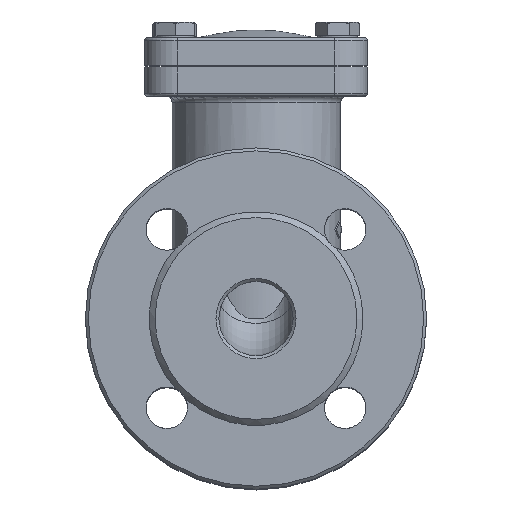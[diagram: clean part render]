
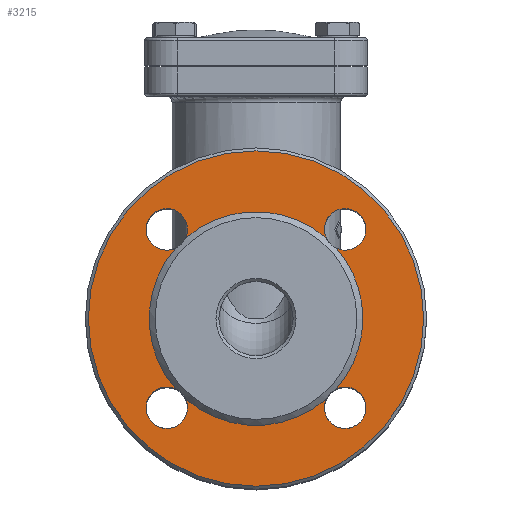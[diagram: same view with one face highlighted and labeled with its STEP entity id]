
A CAD part, top view. The second image highlights one B-rep face of the part: STEP entity #3215.
In plain terms, the highlighted planar face has unit normal (0, 0, 1).
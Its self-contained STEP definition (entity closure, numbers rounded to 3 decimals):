
#3215=ADVANCED_FACE('',(#8164,#8166),#8168,.T.);
#8164=FACE_BOUND('',#8165,.T.);
#8165=EDGE_LOOP('',(#9968));
#8166=FACE_BOUND('',#8167,.T.);
#8167=EDGE_LOOP('',(#9969,#9970,#9971,#9972,#9973,#9974,#9975,#9976,#9977,#9978,
#9979,#9980,#9981));
#8168=PLANE('',#8169);
#8169=AXIS2_PLACEMENT_3D('',#8170,#8171,#8172);
#8170=CARTESIAN_POINT('',(0.,0.,77.143));
#8171=DIRECTION('',(0.,0.,1.));
#8172=DIRECTION('',(1.,0.,0.));
#9968=ORIENTED_EDGE('',*,*,#10891,.F.);
#9969=ORIENTED_EDGE('',*,*,#10892,.F.);
#9970=ORIENTED_EDGE('',*,*,#10869,.T.);
#9971=ORIENTED_EDGE('',*,*,#10871,.T.);
#9972=ORIENTED_EDGE('',*,*,#10893,.F.);
#9973=ORIENTED_EDGE('',*,*,#10866,.T.);
#9974=ORIENTED_EDGE('',*,*,#10868,.T.);
#9975=ORIENTED_EDGE('',*,*,#10894,.F.);
#9976=ORIENTED_EDGE('',*,*,#10863,.T.);
#9977=ORIENTED_EDGE('',*,*,#10865,.T.);
#9978=ORIENTED_EDGE('',*,*,#10895,.F.);
#9979=ORIENTED_EDGE('',*,*,#10896,.F.);
#9980=ORIENTED_EDGE('',*,*,#10872,.T.);
#9981=ORIENTED_EDGE('',*,*,#10874,.T.);
#10863=EDGE_CURVE('',#12238,#12239,#12240,.T.);
#10865=EDGE_CURVE('',#12239,#12241,#12243,.T.);
#10866=EDGE_CURVE('',#12244,#12245,#12246,.T.);
#10868=EDGE_CURVE('',#12245,#12247,#12249,.T.);
#10869=EDGE_CURVE('',#12250,#12251,#12252,.T.);
#10871=EDGE_CURVE('',#12251,#12253,#12255,.T.);
#10872=EDGE_CURVE('',#12256,#12257,#12258,.T.);
#10874=EDGE_CURVE('',#12257,#12259,#12261,.T.);
#10891=EDGE_CURVE('',#12294,#12294,#12295,.T.);
#10892=EDGE_CURVE('',#12250,#12259,#12296,.T.);
#10893=EDGE_CURVE('',#12244,#12253,#12297,.T.);
#10894=EDGE_CURVE('',#12238,#12247,#12298,.T.);
#10895=EDGE_CURVE('',#12299,#12241,#12300,.T.);
#10896=EDGE_CURVE('',#12256,#12299,#12301,.T.);
#12238=VERTEX_POINT('',#21793);
#12239=VERTEX_POINT('',#21794);
#12240=CIRCLE('',#21795,7.);
#12241=VERTEX_POINT('',#21799);
#12243=CIRCLE('',#21856,7.);
#12244=VERTEX_POINT('',#21860);
#12245=VERTEX_POINT('',#21861);
#12246=CIRCLE('',#21862,7.);
#12247=VERTEX_POINT('',#21866);
#12249=CIRCLE('',#21923,7.);
#12250=VERTEX_POINT('',#21927);
#12251=VERTEX_POINT('',#21928);
#12252=CIRCLE('',#21929,7.);
#12253=VERTEX_POINT('',#21933);
#12255=CIRCLE('',#21990,7.);
#12256=VERTEX_POINT('',#21994);
#12257=VERTEX_POINT('',#21995);
#12258=CIRCLE('',#21996,7.);
#12259=VERTEX_POINT('',#22000);
#12261=CIRCLE('',#22057,7.);
#12294=VERTEX_POINT('',#22349);
#12295=CIRCLE('',#22350,56.5);
#12296=CIRCLE('',#22354,36.);
#12297=CIRCLE('',#22358,36.);
#12298=CIRCLE('',#22362,36.);
#12299=VERTEX_POINT('',#22366);
#12300=CIRCLE('',#22367,36.);
#12301=CIRCLE('',#22371,36.);
#21793=CARTESIAN_POINT('',(23.71,27.09,77.143));
#21794=CARTESIAN_POINT('',(37.052,30.052,77.143));
#21795=AXIS2_PLACEMENT_3D('',#21796,#21797,#21798);
#21796=CARTESIAN_POINT('',(30.052,30.052,77.143));
#21797=DIRECTION('',(0.,0.,-1.));
#21798=DIRECTION('',(-0.906,-0.423,0.));
#21799=CARTESIAN_POINT('',(27.09,23.71,77.143));
#21856=AXIS2_PLACEMENT_3D('',#21857,#21858,#21859);
#21857=CARTESIAN_POINT('',(30.052,30.052,77.143));
#21858=DIRECTION('',(0.,0.,-1.));
#21859=DIRECTION('',(1.,0.,0.));
#21860=CARTESIAN_POINT('',(-27.09,23.71,77.143));
#21861=CARTESIAN_POINT('',(-23.052,30.052,77.143));
#21862=AXIS2_PLACEMENT_3D('',#21863,#21864,#21865);
#21863=CARTESIAN_POINT('',(-30.052,30.052,77.143));
#21864=DIRECTION('',(0.,0.,-1.));
#21865=DIRECTION('',(0.423,-0.906,0.));
#21866=CARTESIAN_POINT('',(-23.71,27.09,77.143));
#21923=AXIS2_PLACEMENT_3D('',#21924,#21925,#21926);
#21924=CARTESIAN_POINT('',(-30.052,30.052,77.143));
#21925=DIRECTION('',(0.,0.,-1.));
#21926=DIRECTION('',(1.,0.,0.));
#21927=CARTESIAN_POINT('',(-23.71,-27.09,77.143));
#21928=CARTESIAN_POINT('',(-23.052,-30.052,77.143));
#21929=AXIS2_PLACEMENT_3D('',#21930,#21931,#21932);
#21930=CARTESIAN_POINT('',(-30.052,-30.052,77.143));
#21931=DIRECTION('',(0.,0.,-1.));
#21932=DIRECTION('',(0.906,0.423,0.));
#21933=CARTESIAN_POINT('',(-27.09,-23.71,77.143));
#21990=AXIS2_PLACEMENT_3D('',#21991,#21992,#21993);
#21991=CARTESIAN_POINT('',(-30.052,-30.052,77.143));
#21992=DIRECTION('',(0.,0.,-1.));
#21993=DIRECTION('',(1.,0.,0.));
#21994=CARTESIAN_POINT('',(27.09,-23.71,77.143));
#21995=CARTESIAN_POINT('',(37.052,-30.052,77.143));
#21996=AXIS2_PLACEMENT_3D('',#21997,#21998,#21999);
#21997=CARTESIAN_POINT('',(30.052,-30.052,77.143));
#21998=DIRECTION('',(0.,0.,-1.));
#21999=DIRECTION('',(-0.423,0.906,0.));
#22000=CARTESIAN_POINT('',(23.71,-27.09,77.143));
#22057=AXIS2_PLACEMENT_3D('',#22058,#22059,#22060);
#22058=CARTESIAN_POINT('',(30.052,-30.052,77.143));
#22059=DIRECTION('',(0.,0.,-1.));
#22060=DIRECTION('',(1.,0.,0.));
#22349=CARTESIAN_POINT('',(56.5,0.,77.143));
#22350=AXIS2_PLACEMENT_3D('',#22351,#22352,#22353);
#22351=CARTESIAN_POINT('',(0.,0.,77.143));
#22352=DIRECTION('',(0.,0.,-1.));
#22353=DIRECTION('',(1.,0.,0.));
#22354=AXIS2_PLACEMENT_3D('',#22355,#22356,#22357);
#22355=CARTESIAN_POINT('',(0.,0.,77.143));
#22356=DIRECTION('',(0.,0.,1.));
#22357=DIRECTION('',(-0.659,-0.752,0.));
#22358=AXIS2_PLACEMENT_3D('',#22359,#22360,#22361);
#22359=CARTESIAN_POINT('',(0.,0.,77.143));
#22360=DIRECTION('',(0.,0.,1.));
#22361=DIRECTION('',(-0.752,0.659,0.));
#22362=AXIS2_PLACEMENT_3D('',#22363,#22364,#22365);
#22363=CARTESIAN_POINT('',(0.,0.,77.143));
#22364=DIRECTION('',(0.,0.,1.));
#22365=DIRECTION('',(0.659,0.752,0.));
#22366=CARTESIAN_POINT('',(36.,0.,77.143));
#22367=AXIS2_PLACEMENT_3D('',#22368,#22369,#22370);
#22368=CARTESIAN_POINT('',(0.,0.,77.143));
#22369=DIRECTION('',(0.,0.,1.));
#22370=DIRECTION('',(1.,0.,0.));
#22371=AXIS2_PLACEMENT_3D('',#22372,#22373,#22374);
#22372=CARTESIAN_POINT('',(0.,0.,77.143));
#22373=DIRECTION('',(0.,0.,1.));
#22374=DIRECTION('',(0.752,-0.659,0.));
